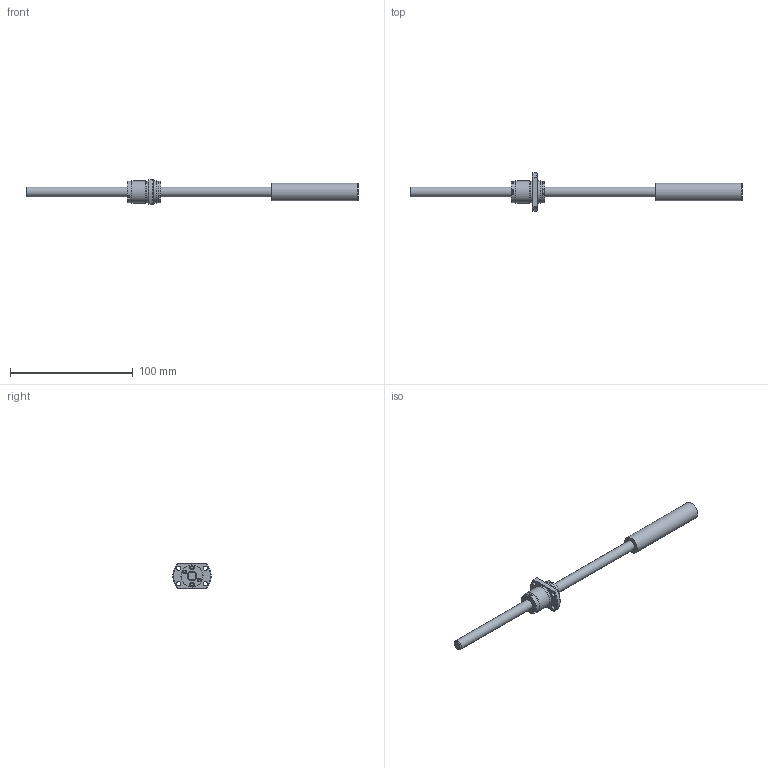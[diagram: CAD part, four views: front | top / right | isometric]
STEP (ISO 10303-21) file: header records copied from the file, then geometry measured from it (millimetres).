
FILE_DESCRIPTION(/* description */ ('STEP AP214'),/* implementation_level */ '2;1');
FILE_NAME(/* name */ 'SRT0812-196R270C7A0X(82.5None)',/* time_stamp */ '2026-08-04T20:04:58+02:00',/* author */ ('License CC BY-ND 4.0'),/* organization */ ('CADENAS'),/* preprocessor_version */ 'ST-DEVELOPER v20',/* originating_system */ 'PARTsolutions',/* authorisation */ ' ');
FILE_SCHEMA (('AUTOMOTIVE_DESIGN {1 0 10303 214 3 1 1}'));
Length unit declared in the file: millimetre
Products named in the file (3): SRT0812-196R270C7A0X(82.5None); SRT0812-196R270ACt7None49Shaft; SRT0812Nut
Assembly tree (2 placements, depth 2):
  SRT0812-196R270C7A0X(82.5None)
    SRT0812-196R270ACt7None49Shaft
    SRT0812Nut
Bounding box: 270 x 30.91 x 20 mm (x, y, z)
Volume: 27544.2 mm3; surface area: 12138 mm2
Topology: 2 solids, 2 shells, 139 faces, 333 edges, 220 vertices
Faces by surface type: plane 96, cylinder 34, cone 9
Full cylindrical faces by diameter (mm): 3 x8, 3.4 x4, 8 x2, 14.2 x1, 17.5 x1, 17.7 x2, 18 x2
Entity records: 3991 total; most frequent: CARTESIAN_POINT 692, DIRECTION 666, ORIENTED_EDGE 614, EDGE_CURVE 307, AXIS2_PLACEMENT_3D 225, VERTEX_POINT 219, LINE 216, VECTOR 216
